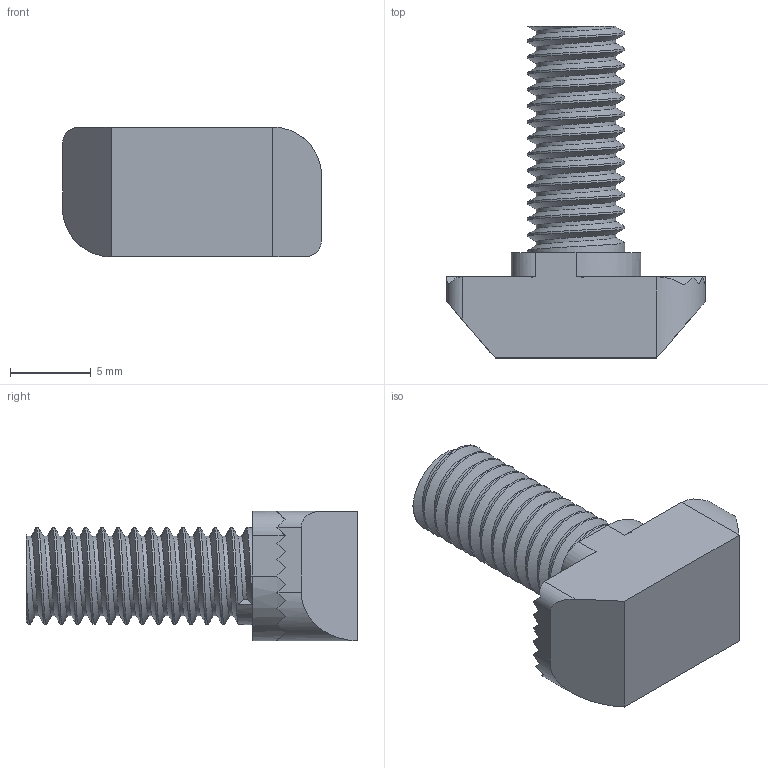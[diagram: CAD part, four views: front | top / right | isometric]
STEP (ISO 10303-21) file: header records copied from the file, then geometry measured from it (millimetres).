
FILE_DESCRIPTION (( 'STEP AP214' ), '1' );
FILE_NAME ('8-2-M6x16.STEP', '2018-12-28T16:12:31', ( '' ), ( '' ), 'SwSTEP 2.0', 'SolidWorks 2018', '' );
FILE_SCHEMA (( 'AUTOMOTIVE_DESIGN' ));
Length unit declared in the file: millimetre
Products named in the file (1): 8-2-M6x16
Bounding box: 16 x 20.5 x 8 mm (x, y, z)
Volume: 937.7 mm3; surface area: 878 mm2
Topology: 1 solids, 1 shells, 83 faces, 230 edges, 150 vertices
Faces by surface type: plane 44, cylinder 36, bspline 3
Entity records: 4710 total; most frequent: CARTESIAN_POINT 2878, ORIENTED_EDGE 460, DIRECTION 292, EDGE_CURVE 230, VERTEX_POINT 150, VECTOR 116, LINE 116, AXIS2_PLACEMENT_3D 88
